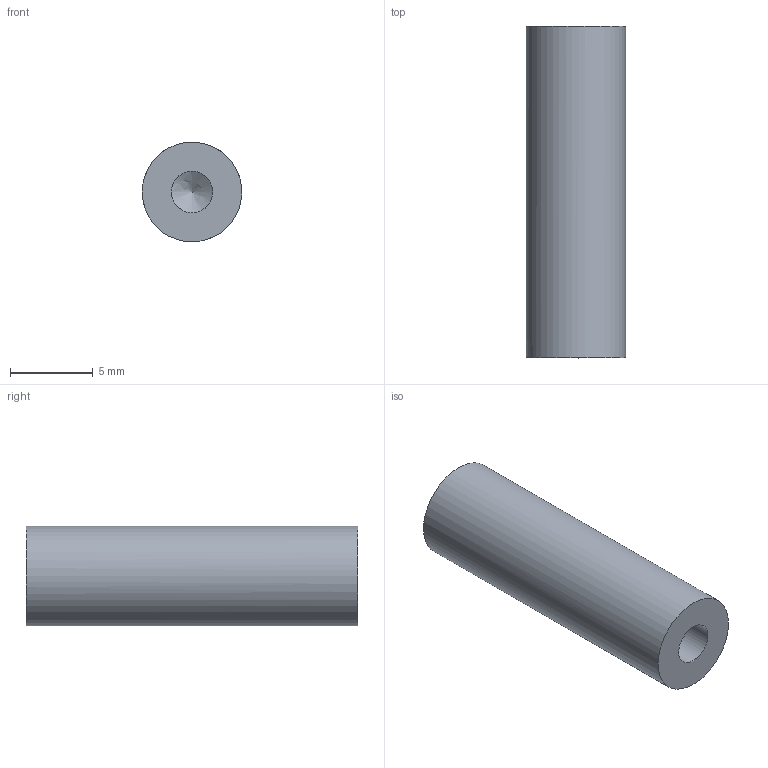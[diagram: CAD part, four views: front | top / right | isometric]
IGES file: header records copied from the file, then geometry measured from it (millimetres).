
Global section: file name: C30-RO-6-20; native system: Autodesk Inventor 2016; preprocessor: unknown; author: e.nonaka; date: 20170509.110414; units: millimetre
Bounding box: 6 x 20 x 5.99 mm (x, y, z)
Volume: 485.2 mm3; surface area: 561.6 mm2
Topology: 1 solids, 1 shells, 7 faces, 17 edges, 12 vertices
Faces by surface type: bspline 7
